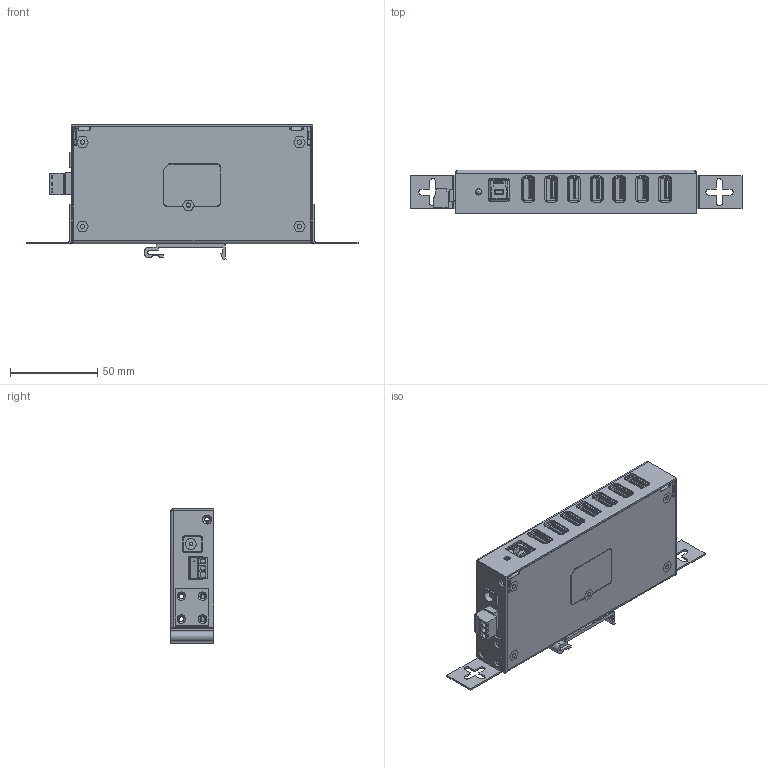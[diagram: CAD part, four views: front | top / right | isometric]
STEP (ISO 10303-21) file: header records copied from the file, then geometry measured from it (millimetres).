
FILE_DESCRIPTION(/* description */ (''),/* implementation_level */ '2;1');
FILE_NAME(/* name */ 'C:/Users/Leo/Desktop/CoolGear/GM-HU37/GM-HU37 Model3d LPV1.step',/* time_stamp */ '2021-04-13T14:09:37-04:00',/* author */ (''),/* organization */ (''),/* preprocessor_version */ 'ST-DEVELOPER v18.1',/* originating_system */ 'Autodesk Translation Framework v10.6.0.1341',/* authorisation */ '');
FILE_SCHEMA (('AUTOMOTIVE_DESIGN { 1 0 10303 214 3 1 1 }'));
Products named in the file (34): GM-HU37; ASM0003; PRT0001; PRT0002; PRT0003; PRT0003_1; PRT0003_2; PRT0003_3; PRT0003_4; PRT0003_5; PRT0003_6; PRT0004; PRT0005; PRT0007; Base; Component55; Mounting plate 2; Mounting plate 1; Clip; Case; Terminal 3 Connector 3.5 v2; logo gearmo 1 v3; germo logo v1; Component3; Component4; Component11; Component12; Component5; Component6; Component7; Component8; Component9; Component10; Component57
Assembly tree (33 placements, depth 5):
  GM-HU37
    ASM0003
      PRT0001
      PRT0002
      PRT0003
      PRT0003_1
      PRT0003_2
      PRT0003_3
      PRT0003_4
      PRT0003_5
      PRT0003_6
      PRT0004
      PRT0005
      PRT0007
    Base
      Component55
    Mounting plate 2
    Mounting plate 1
    Clip
    Case
    Terminal 3 Connector 3.5 v2
    logo gearmo 1 v3
      germo logo v1
      Component3
      Component4
        Component11
          Component12
      Component5
      Component6
      Component7
      Component8
      Component9
      Component10
    Component57
Bounding box: 190.8 x 25.02 x 77.5 mm (x, y, z)
Volume: 60856.4 mm3; surface area: 133913.1 mm2
Topology: 15 solids, 16 shells, 4610 faces, 12777 edges, 8381 vertices
Faces by surface type: cylinder 2248, plane 2203, torus 78, bspline 38, sphere 22, cone 21
Full cylindrical faces by diameter (mm): 0.7 x28, 0.8 x11, 1.2 x3, 1.3 x3, 1.5 x21, 2 x7, 2.5 x4, 2.6 x36, 2.8 x6, 3 x2, 3.3 x5, 3.6 x1, 4.6 x4, 6 x10, 6.3 x1
Entity records: 156570 total; most frequent: CARTESIAN_POINT 32797, DIRECTION 26523, ORIENTED_EDGE 25508, EDGE_CURVE 12755, AXIS2_PLACEMENT_3D 9308, VERTEX_POINT 8381, LINE 7907, VECTOR 7907
